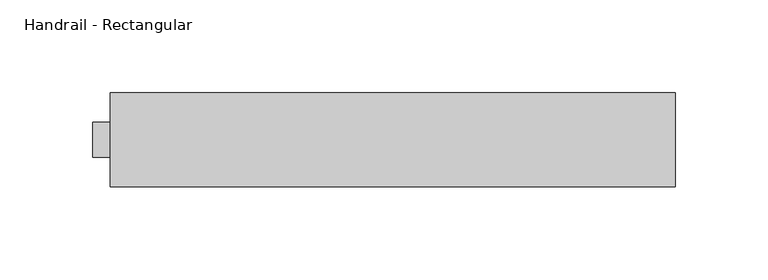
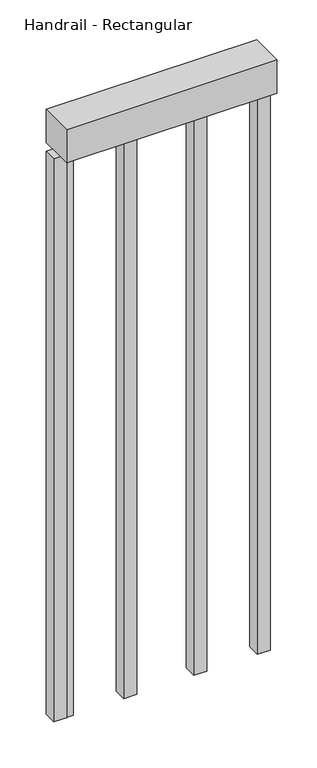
"""IFC4 building model written with IfcOpenShell, lengths in millimetres: railing geometry, Handrail - Rectangular."""

import ifcopenshell
import ifcopenshell.guid

model = None  # the IFC model being written
_history = None  # IfcOwnerHistory: only IFC2X3 demands one
_inside = {}  # id of a spatial element -> (the spatial element, [elements in it])
_under = {}  # id of a project, library or spatial element -> (it, [spatial elements below it])
_declared = {}  # id of a project -> (the project, [libraries it declares])
_typed = {}  # id of a type object -> (the type object, [elements of that type])
_made_of = {}  # id of a material, layer set ... -> (it, [elements and type objects made of it])


def new_model(schema):
    """Start an empty IFC model of exactly this schema.

    Asked for "IFC4X3", IfcOpenShell would pick the latest addendum, in which some entities
    have other attributes; the version numbers below select the first issue.
    IFC2X3 requires an IfcOwnerHistory on every rooted entity: one is made here for all.
    """
    global model, _history
    if schema == "IFC4X3":
        model = ifcopenshell.file(schema_version=(4, 3, 0, 0))
    else:
        model = ifcopenshell.file(schema=schema)
    _inside.clear()
    _under.clear()
    _declared.clear()
    _typed.clear()
    _made_of.clear()
    _history = None
    if model.schema == "IFC2X3":
        org = make("IfcOrganization", Name="unknown")
        user = make(
            "IfcPersonAndOrganization",
            ThePerson=make("IfcPerson", FamilyName="unknown"),
            TheOrganization=org,
        )
        app = make(
            "IfcApplication",
            ApplicationDeveloper=org,
            Version="unknown",
            ApplicationFullName="unknown",
            ApplicationIdentifier="unknown",
        )
        _history = make(
            "IfcOwnerHistory",
            OwningUser=user,
            OwningApplication=app,
            ChangeAction="ADDED",
            CreationDate=0,
        )
    return model


def make(cls, **values):
    """One entity of the class cls with the attributes given. An attribute that is None is left unset."""
    return model.create_entity(
        cls, **{name: value for name, value in values.items() if value is not None}
    )


def rooted(cls, **values):
    """An entity with a GlobalId (a new one), such as an element, a storey or a relation."""
    return make(cls, GlobalId=ifcopenshell.guid.new(), OwnerHistory=_history, **values)


def si_unit(unit_type, name, prefix=None):
    """IfcSIUnit, for example si_unit("LENGTHUNIT", "METRE", prefix="MILLI")."""
    return make("IfcSIUnit", UnitType=unit_type, Prefix=prefix, Name=name)


def assignment(units):
    """IfcUnitAssignment: the units of a project."""
    return None if units is None else make("IfcUnitAssignment", Units=units)


def point(xyz):
    """IfcCartesianPoint."""
    return None if xyz is None else make("IfcCartesianPoint", Coordinates=xyz)


def direction(xyz):
    """IfcDirection."""
    return None if xyz is None else make("IfcDirection", DirectionRatios=xyz)


def frame(location, z_axis=None, x_axis=None):
    """IfcAxis2Placement3D, a coordinate frame: its origin and axes. An axis left out is left unset."""
    return make(
        "IfcAxis2Placement3D",
        Location=point(location),
        Axis=direction(z_axis),
        RefDirection=direction(x_axis),
    )


def origin():
    """The frame at (0, 0, 0) with its axes left unset."""
    return frame((0.0, 0.0, 0.0))


def place(relative_to, where):
    """IfcLocalPlacement: puts the frame where relative to a parent placement (None: the world)."""
    return make(
        "IfcLocalPlacement", PlacementRelTo=relative_to, RelativePlacement=where
    )


def context(
    kind, dimensions, precision=None, world=None, true_north=None, identifier=None
):
    """IfcGeometricRepresentationContext, for example the 3D "Model" context."""
    return make(
        "IfcGeometricRepresentationContext",
        ContextIdentifier=identifier,
        ContextType=kind,
        CoordinateSpaceDimension=dimensions,
        Precision=precision,
        WorldCoordinateSystem=world,
        TrueNorth=true_north,
    )


def project(units=None, contexts=None):
    """IfcProject with its units and contexts."""
    return rooted(
        "IfcProject",
        Name="project",
        RepresentationContexts=contexts,
        UnitsInContext=assignment(units),
    )


def spatial(cls, under=None, at=None, **own):
    """A site, building, storey or space (cls), placed at a placement, below another one or the project."""
    s = rooted(cls, ObjectPlacement=at, **own)
    if under is not None:
        _under.setdefault(under.id(), (under, []))[1].append(s)
    return s


def polyline(points):
    """IfcPolyline through the points."""
    return make("IfcPolyline", Points=[point(p) for p in points])


def outline(outer, holes=None, kind="AREA"):
    """IfcArbitraryClosedProfileDef: a profile drawn as a closed curve; with holes, ...WithVoids."""
    if holes is None:
        return make("IfcArbitraryClosedProfileDef", ProfileType=kind, OuterCurve=outer)
    return make(
        "IfcArbitraryProfileDefWithVoids",
        ProfileType=kind,
        OuterCurve=outer,
        InnerCurves=holes,
    )


def extrude(swept, where, along, depth):
    """IfcExtrudedAreaSolid: the profile swept, set in the frame where, extruded along a direction by depth."""
    return make(
        "IfcExtrudedAreaSolid",
        SweptArea=swept,
        Position=where,
        ExtrudedDirection=direction(along),
        Depth=depth,
    )


def shape(context_of_items, identifier, shape_type, items):
    """IfcShapeRepresentation: the items that make up one representation, for example the "Body"."""
    return make(
        "IfcShapeRepresentation",
        ContextOfItems=context_of_items,
        RepresentationIdentifier=identifier,
        RepresentationType=shape_type,
        Items=items,
    )


def source(mapping_origin, context_of_items, identifier, shape_type, items):
    """IfcRepresentationMap: a shape defined once, which mapped items show again and again."""
    return make(
        "IfcRepresentationMap",
        MappingOrigin=mapping_origin,
        MappedRepresentation=shape(context_of_items, identifier, shape_type, items),
    )


def transform(
    local_origin,
    x_axis=None,
    y_axis=None,
    z_axis=None,
    scale=None,
    scale2=None,
    scale3=None,
    uniform=True,
):
    """IfcCartesianTransformationOperator3D, or its non-uniform kind. x_axis, y_axis, z_axis: its Axis1, 2, 3."""
    if uniform:
        return make(
            "IfcCartesianTransformationOperator3D",
            Axis1=direction(x_axis),
            Axis2=direction(y_axis),
            LocalOrigin=point(local_origin),
            Scale=scale,
            Axis3=direction(z_axis),
        )
    return make(
        "IfcCartesianTransformationOperator3DnonUniform",
        Axis1=direction(x_axis),
        Axis2=direction(y_axis),
        LocalOrigin=point(local_origin),
        Scale=scale,
        Axis3=direction(z_axis),
        Scale2=scale2,
        Scale3=scale3,
    )


def mapped(mapping_source, mapping_target):
    """IfcMappedItem: shows the shape of a source again, moved by a transform."""
    return make(
        "IfcMappedItem", MappingSource=mapping_source, MappingTarget=mapping_target
    )


def made_of(thing, what):
    """Note that an element or type object is made of a material, layer set ...; save() writes the relation."""
    if what is not None:
        _made_of.setdefault(what.id(), (what, []))[1].append(thing)
    return thing


def element(
    cls,
    number,
    at=None,
    inside=None,
    cuts=None,
    type_object=None,
    material=None,
    context=None,
    identifier="Body",
    shape_type=None,
    held_by="IfcProductDefinitionShape",
    body=None,
    shapes=None,
    **own,
):
    """One element of the class cls, such as IfcWall. Its Tag is "e" and its number.

    at: its placement. inside: the storey or other place that contains it. cuts: it is an
    opening in that element (IfcRelVoidsElement). A single representation is given by context,
    identifier, shape_type and body (its items); several are given by shapes. held_by: the class
    of the entity that holds the representations. save() writes the other relations.
    """
    e = rooted(cls, Tag="e%d" % number, ObjectPlacement=at, **own)
    if body is not None:
        shapes = [shape(context, identifier, shape_type, body)]
    if shapes is not None:
        e.Representation = make(held_by, Representations=shapes)
    if inside is not None:
        _inside.setdefault(inside.id(), (inside, []))[1].append(e)
    if cuts is not None:
        rooted(
            "IfcRelVoidsElement", RelatingBuildingElement=cuts, RelatedOpeningElement=e
        )
    if type_object is not None:
        _typed.setdefault(type_object.id(), (type_object, []))[1].append(e)
    return made_of(e, material)


def aggregate(whole, parts):
    """IfcRelAggregates: a whole, such as a stair, and the parts it consists of."""
    return rooted("IfcRelAggregates", RelatingObject=whole, RelatedObjects=parts)


def save(model, path):
    """Write the relations noted so far, then the file.

    IfcRelAggregates (storeys below a building ...), IfcRelContainedInSpatialStructure (elements
    in a storey), IfcRelDefinesByType, IfcRelAssociatesMaterial and IfcRelDeclares: one each for
    every whole, place, type object, material and project.
    """
    for whole, parts in _under.values():
        aggregate(whole, parts)
    for where, things in _inside.values():
        rooted(
            "IfcRelContainedInSpatialStructure",
            RelatedElements=things,
            RelatingStructure=where,
        )
    for kind, things in _typed.values():
        rooted("IfcRelDefinesByType", RelatedObjects=things, RelatingType=kind)
    for what, things in _made_of.values():
        rooted("IfcRelAssociatesMaterial", RelatedObjects=things, RelatingMaterial=what)
    for by, libraries in _declared.values():
        rooted("IfcRelDeclares", RelatingContext=by, RelatedDefinitions=libraries)
    model.write(path)


def handrail_rectangular_ebda34be(model_context):
    return source(origin(), model_context, "Body", "SweptSolid", [
        extrude(outline(polyline([(93258.9951634, 10451.353246), (93258.9951634, 10400.553246), (92954.1951063, 10400.553246), (92954.1951063, 10451.353246), (93258.9951634, 10451.353246)])), frame((0.0, 0.0, 4216.4), z_axis=(0.0, 0.0, 1.0), x_axis=(1.0, 0.0, 0.0)), (0.0, 0.0, 1.0), 50.8),
        extrude(outline(polyline([(92963.7201634, 10435.478246), (92963.7201634, 10416.428246), (92944.6701634, 10416.428246), (92944.6701634, 10435.478246), (92963.7201634, 10435.478246)])), frame((0.0, 0.0, 3352.8), z_axis=(0.0, 0.0, 1.0), x_axis=(1.0, 0.0, 0.0)), (0.0, 0.0, 1.0), 863.6),
        extrude(outline(polyline([(93065.3201634, 10435.478246), (93065.3201634, 10416.428246), (93046.2701634, 10416.428246), (93046.2701634, 10435.478246), (93065.3201634, 10435.478246)])), frame((0.0, 0.0, 3352.8), z_axis=(0.0, 0.0, 1.0), x_axis=(1.0, 0.0, 0.0)), (0.0, 0.0, 1.0), 863.6),
        extrude(outline(polyline([(93166.9201634, 10435.478246), (93166.9201634, 10416.428246), (93147.8701634, 10416.428246), (93147.8701634, 10435.478246), (93166.9201634, 10435.478246)])), frame((0.0, 0.0, 3352.8), z_axis=(0.0, 0.0, 1.0), x_axis=(1.0, 0.0, 0.0)), (0.0, 0.0, 1.0), 863.6),
        extrude(outline(polyline([(92973.2451063, 10435.478246), (92973.2451063, 10416.428246), (92954.1951063, 10416.428246), (92954.1951063, 10435.478246), (92973.2451063, 10435.478246)])), frame((0.0, 0.0, 3352.8), z_axis=(0.0, 0.0, 1.0), x_axis=(1.0, 0.0, 0.0)), (0.0, 0.0, 1.0), 863.6),
        extrude(outline(polyline([(93258.9951634, 10435.478246), (93258.9951634, 10416.428246), (93239.9451634, 10416.428246), (93239.9451634, 10435.478246), (93258.9951634, 10435.478246)])), frame((0.0, 0.0, 3352.8), z_axis=(0.0, 0.0, 1.0), x_axis=(1.0, 0.0, 0.0)), (0.0, 0.0, 1.0), 863.6),
    ])


if __name__ == "__main__":
    model = new_model("IFC4")
    model_context = context("Model", 3, world=origin())
    ifc_project = project(units=[si_unit("LENGTHUNIT", "METRE", prefix="MILLI")], contexts=[model_context])
    site = spatial("IfcSite", under=ifc_project)
    building = spatial("IfcBuilding", under=site)
    placement = place(None, origin())
    handrail_rectangular_shape = handrail_rectangular_ebda34be(model_context)
    element("IfcRailing", 1, ObjectType="Handrail - Rectangular", at=placement, inside=building, context=model_context, shape_type="MappedRepresentation", body=[
        mapped(handrail_rectangular_shape, transform((0.0, 0.0, 0.0), x_axis=(1.0, 0.0, 0.0), y_axis=(0.0, 1.0, 0.0), z_axis=(0.0, 0.0, 1.0))),
    ])
    save(model, "model.ifc")
